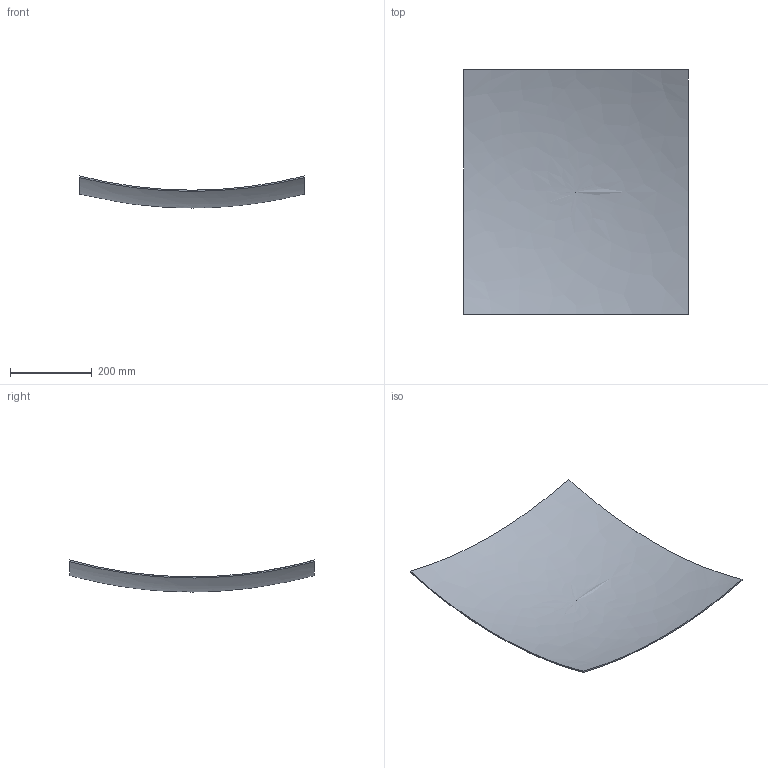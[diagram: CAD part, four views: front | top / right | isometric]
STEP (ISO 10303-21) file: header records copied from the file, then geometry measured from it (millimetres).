
FILE_DESCRIPTION( ( 'Unknown' ), '1' );
FILE_NAME( 'C:/Users/Lee/Documents/HGC Work/Solid Edge/heavy_gas_cherenkov_v5/step/mirror_alone_para.stp', 'Unknown', ( 'Unknown' ), ( 'Unknown' ), 'PSStep 13.0', 'Unknown', ' ' );
FILE_SCHEMA( ( 'AUTOMOTIVE_DESIGN { 1 0 10303 214 1 1 1 1 }' ) );
Length unit declared in the file: millimetre
Products named in the file (1): 1
Bounding box: 550 x 600 x 78.47 mm (x, y, z)
Volume: 984423.8 mm3; surface area: 682153.3 mm2
Topology: 1 solids, 1 shells, 6 faces, 18 edges, 12 vertices
Faces by surface type: plane 4, revolution 2
Entity records: 431 total; most frequent: CARTESIAN_POINT 248, ORIENTED_EDGE 24, DIRECTION 16, EDGE_CURVE 12, B_SPLINE_CURVE_WITH_KNOTS 10, VERTEX_POINT 10, STYLED_ITEM 6, PRESENTATION_STYLE_ASSIGNMENT 6
